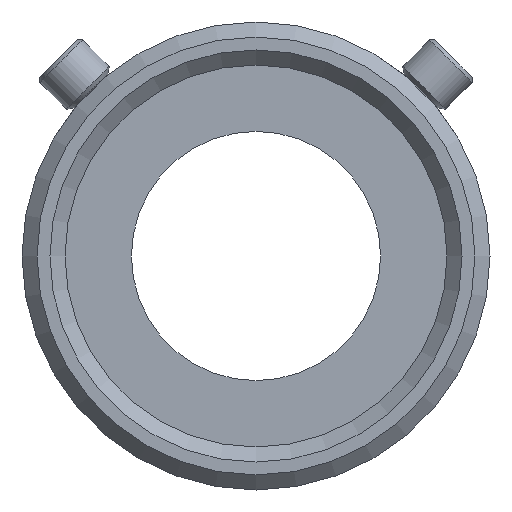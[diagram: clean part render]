
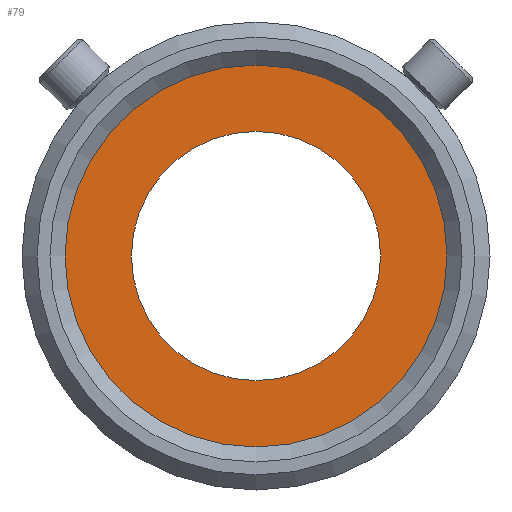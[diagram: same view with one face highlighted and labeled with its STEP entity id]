
A CAD part, front view. The second image highlights one B-rep face of the part: STEP entity #79.
In plain terms, the highlighted planar face has unit normal (0, -1, 0).
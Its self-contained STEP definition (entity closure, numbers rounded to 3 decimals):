
#79 = ADVANCED_FACE( '', ( #119, #120 ), #121, .T. );
#119 = FACE_OUTER_BOUND( '', #210, .T. );
#120 = FACE_BOUND( '', #211, .T. );
#121 = PLANE( '', #212 );
#210 = EDGE_LOOP( '', ( #315 ) );
#211 = EDGE_LOOP( '', ( #316 ) );
#212 = AXIS2_PLACEMENT_3D( '', #317, #318, #319 );
#315 = ORIENTED_EDGE( '', *, *, #458, .T. );
#316 = ORIENTED_EDGE( '', *, *, #464, .F. );
#317 = CARTESIAN_POINT( '', ( 8.25, 25., 0. ) );
#318 = DIRECTION( '', ( 0., -1., 0. ) );
#319 = DIRECTION( '', ( 0., 0., -1. ) );
#458 = EDGE_CURVE( '', #503, #503, #504, .T. );
#464 = EDGE_CURVE( '', #515, #515, #516, .T. );
#503 = VERTEX_POINT( '', #640 );
#504 = CIRCLE( '', #641, 12.65 );
#515 = VERTEX_POINT( '', #715 );
#516 = CIRCLE( '', #716, 8.25 );
#640 = CARTESIAN_POINT( '', ( 0., 25., -12.65 ) );
#641 = AXIS2_PLACEMENT_3D( '', #838, #839, #840 );
#715 = CARTESIAN_POINT( '', ( 0., 25., -8.25 ) );
#716 = AXIS2_PLACEMENT_3D( '', #847, #848, #849 );
#838 = CARTESIAN_POINT( '', ( 0., 25., 0. ) );
#839 = DIRECTION( '', ( 0., -1., 0. ) );
#840 = DIRECTION( '', ( 0., 0., -1. ) );
#847 = CARTESIAN_POINT( '', ( 0., 25., 0. ) );
#848 = DIRECTION( '', ( 0., -1., 0. ) );
#849 = DIRECTION( '', ( 0., 0., -1. ) );
